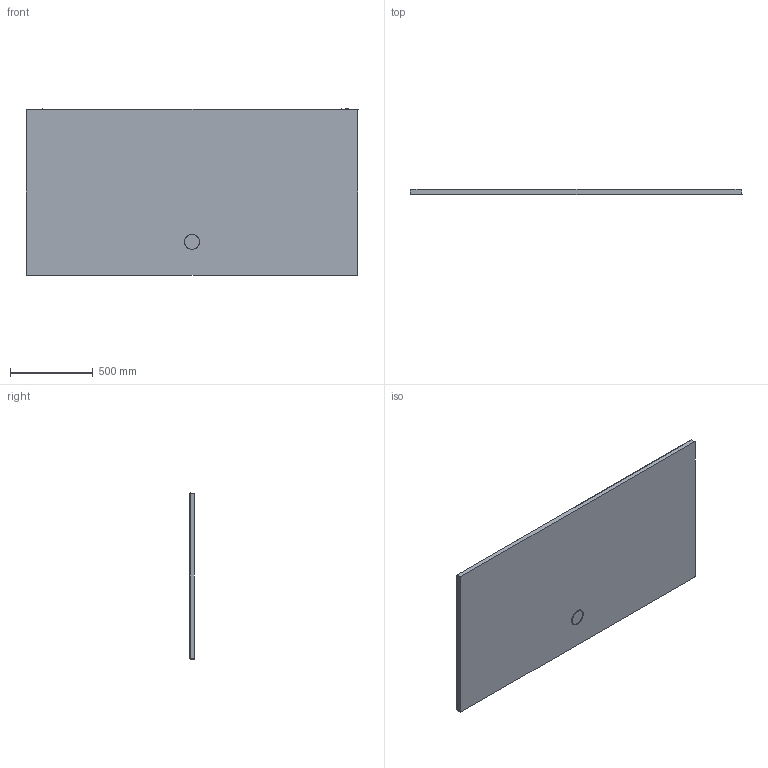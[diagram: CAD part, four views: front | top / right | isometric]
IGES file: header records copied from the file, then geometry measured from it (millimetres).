
Start section: SolidWorks IGES file using analytic representation for surfaces
Global section: file name: D:\Users\M.Szymanski\Desktop\B-M_Space\B_M_100x200x1,5.IGS; native system: SolidWorks 2011; preprocessor: SolidWorks 2011; author: M.Szymanski; date: 180216.071212; units: millimetre
Bounding box: 2000 x 30 x 1000 mm (x, y, z)
Surface area: 4192446.9 mm2 (no closed solid volume)
Topology: 0 solids, 0 shells, 61 faces, 739 edges, 736 vertices
Faces by surface type: bspline 39, revolution 22
